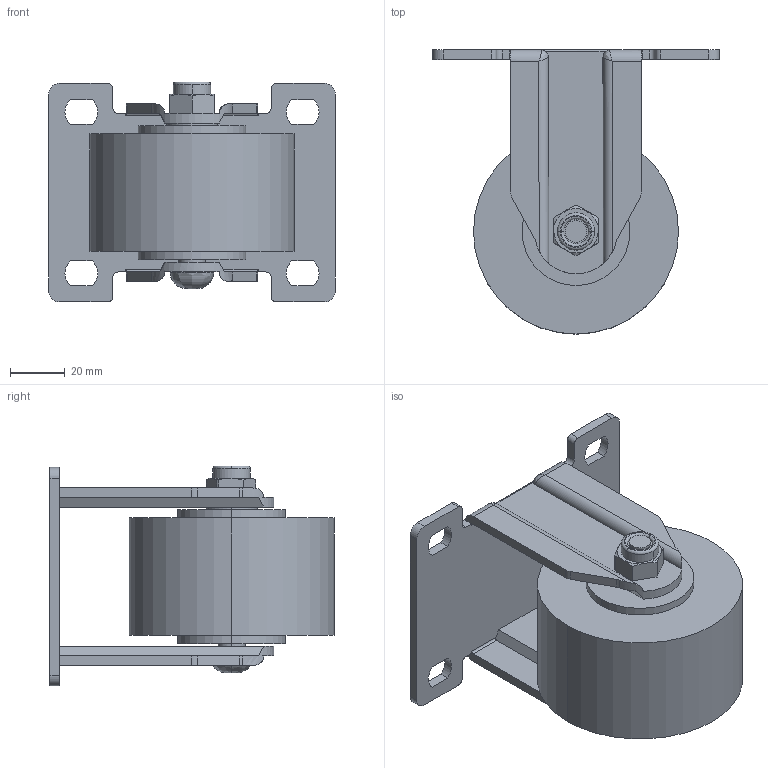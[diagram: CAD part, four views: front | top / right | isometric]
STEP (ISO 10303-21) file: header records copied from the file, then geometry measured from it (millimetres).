
FILE_DESCRIPTION (( 'STEP AP203' ), '1' );
FILE_NAME ('FN-A3204.STEP', '2015-11-18T07:26:18', ( '' ), ( '' ), 'SwSTEP 2.0', 'SolidWorks 2014', '' );
FILE_SCHEMA (( 'CONFIG_CONTROL_DESIGN' ));
Length unit declared in the file: millimetre
Products named in the file (1): FN-A3204
Bounding box: 105 x 104 x 80.5 mm (x, y, z)
Volume: 247932.8 mm3; surface area: 51313.1 mm2
Topology: 1 solids, 1 shells, 150 faces, 402 edges, 260 vertices
Faces by surface type: plane 72, cylinder 59, bspline 11, cone 6, torus 2
Entity records: 7168 total; most frequent: CARTESIAN_POINT 3419, ORIENTED_EDGE 796, DIRECTION 730, EDGE_CURVE 398, VERTEX_POINT 260, AXIS2_PLACEMENT_3D 256, LINE 218, VECTOR 218
